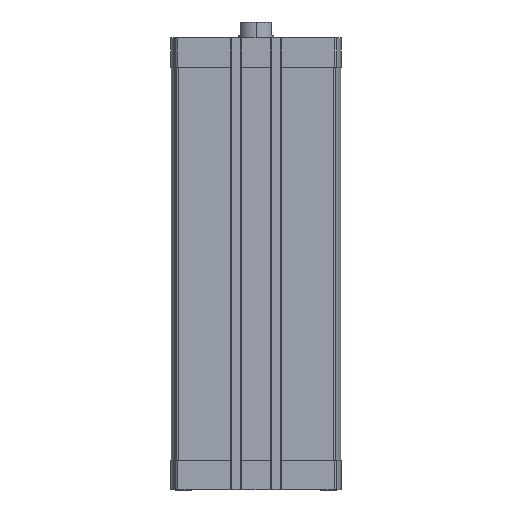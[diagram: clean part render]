
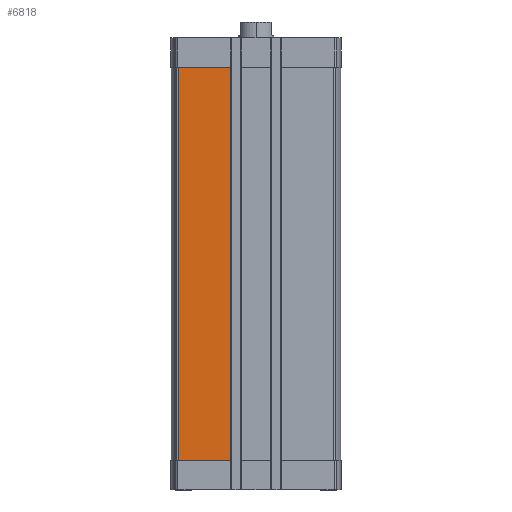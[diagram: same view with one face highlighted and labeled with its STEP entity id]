
A CAD part, left-side view. The second image highlights one B-rep face of the part: STEP entity #6818.
In plain terms, the highlighted planar face has unit normal (-1, 0, 0).
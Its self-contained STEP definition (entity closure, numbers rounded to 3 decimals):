
#683 = CARTESIAN_POINT ( 'NONE',  ( -47.5, 43.743, -16.5 ) ) ;
#1838 = CARTESIAN_POINT ( 'NONE',  ( -47.5, 14.3, -16.5 ) ) ;
#2183 = EDGE_CURVE ( 'NONE', #13363, #8432, #3652, .T. ) ;
#3584 = VECTOR ( 'NONE', #7495, 1000. ) ;
#3652 = LINE ( 'NONE', #7285, #3584 ) ;
#3925 = FACE_OUTER_BOUND ( 'NONE', #11556, .T. ) ;
#4377 = DIRECTION ( 'NONE',  ( 0., 0., 1. ) ) ;
#4560 = VERTEX_POINT ( 'NONE', #683 ) ;
#4904 = CARTESIAN_POINT ( 'NONE',  ( -47.5, 14.3, -237.5 ) ) ;
#5137 = VECTOR ( 'NONE', #4377, 1000. ) ;
#5204 = LINE ( 'NONE', #4904, #5137 ) ;
#5602 = CARTESIAN_POINT ( 'NONE',  ( -47.5, 43.743, -237.5 ) ) ;
#5730 = DIRECTION ( 'NONE',  ( 0., 0., -1. ) ) ;
#5776 = ORIENTED_EDGE ( 'NONE', *, *, #8763, .T. ) ;
#6428 = EDGE_CURVE ( 'NONE', #8432, #10487, #5204, .T. ) ;
#6818 = ADVANCED_FACE ( 'NONE', ( #3925 ), #13603, .T. ) ;
#6926 = VECTOR ( 'NONE', #7572, 1000. ) ;
#7066 = LINE ( 'NONE', #7114, #6926 ) ;
#7114 = CARTESIAN_POINT ( 'NONE',  ( -47.5, 0., -16.5 ) ) ;
#7284 = ORIENTED_EDGE ( 'NONE', *, *, #6428, .T. ) ;
#7285 = CARTESIAN_POINT ( 'NONE',  ( -47.5, 43.743, -237.5 ) ) ;
#7495 = DIRECTION ( 'NONE',  ( 0., -1., 0. ) ) ;
#7572 = DIRECTION ( 'NONE',  ( 0., 1., 0. ) ) ;
#8432 = VERTEX_POINT ( 'NONE', #12734 ) ;
#8763 = EDGE_CURVE ( 'NONE', #4560, #13363, #11973, .T. ) ;
#10487 = VERTEX_POINT ( 'NONE', #1838 ) ;
#11246 = EDGE_CURVE ( 'NONE', #10487, #4560, #7066, .T. ) ;
#11556 = EDGE_LOOP ( 'NONE', ( #14621, #7284, #12161, #5776 ) ) ;
#11743 = VECTOR ( 'NONE', #5730, 1000. ) ;
#11973 = LINE ( 'NONE', #5602, #11743 ) ;
#12161 = ORIENTED_EDGE ( 'NONE', *, *, #11246, .T. ) ;
#12734 = CARTESIAN_POINT ( 'NONE',  ( -47.5, 14.3, -237.5 ) ) ;
#13134 = CARTESIAN_POINT ( 'NONE',  ( -47.5, 43.743, -237.5 ) ) ;
#13363 = VERTEX_POINT ( 'NONE', #13134 ) ;
#13487 = DIRECTION ( 'NONE',  ( 0., 0., 1. ) ) ;
#13508 = DIRECTION ( 'NONE',  ( -1., 0., 0. ) ) ;
#13603 = PLANE ( 'NONE',  #15180 ) ;
#13662 = CARTESIAN_POINT ( 'NONE',  ( -47.5, 43.743, -237.5 ) ) ;
#14621 = ORIENTED_EDGE ( 'NONE', *, *, #2183, .T. ) ;
#15180 = AXIS2_PLACEMENT_3D ( 'NONE', #13662, #13508, #13487 ) ;
